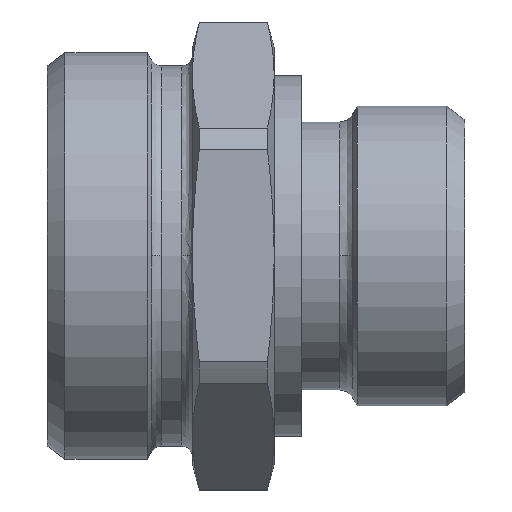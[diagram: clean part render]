
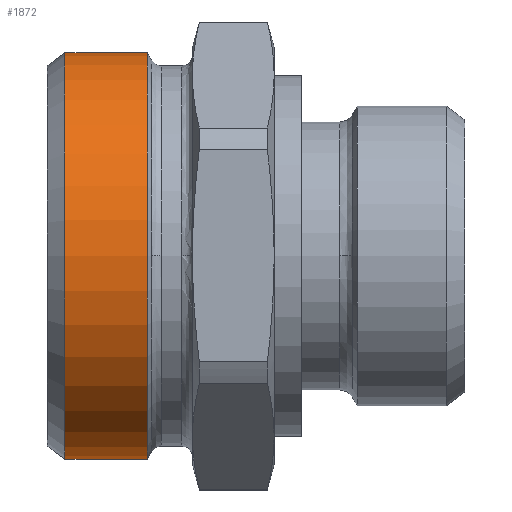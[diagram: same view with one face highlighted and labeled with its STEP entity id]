
A CAD part, top view. The second image highlights one B-rep face of the part: STEP entity #1872.
In plain terms, the highlighted cylindrical face has radius 22.41 mm (diameter 44.82 mm), a partial arc.
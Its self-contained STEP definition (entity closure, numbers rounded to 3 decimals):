
#908=CARTESIAN_POINT('',(0.,-22.41,18.563));
#909=VERTEX_POINT('',#908);
#910=CARTESIAN_POINT('',(0.,-22.41,9.493));
#911=VERTEX_POINT('',#910);
#912=CARTESIAN_POINT('',(0.,-22.41,18.563));
#913=DIRECTION('',(0.0,0.0,-1.0));
#914=VECTOR('',#913,9.07);
#915=LINE('',#912,#914);
#916=EDGE_CURVE('',#909,#911,#915,.T.);
#918=CARTESIAN_POINT('',(0.,22.41,18.563));
#919=VERTEX_POINT('',#918);
#927=CARTESIAN_POINT('',(0.,22.41,9.493));
#928=VERTEX_POINT('',#927);
#929=CARTESIAN_POINT('',(0.,22.41,9.493));
#930=DIRECTION('',(0.0,0.0,1.0));
#931=VECTOR('',#930,9.07);
#932=LINE('',#929,#931);
#933=EDGE_CURVE('',#928,#919,#932,.T.);
#1748=CARTESIAN_POINT('',(0.,0.,9.493));
#1749=DIRECTION('',(0.0,0.0,-1.0));
#1750=DIRECTION('',(0.0,-1.0,0.0));
#1751=AXIS2_PLACEMENT_3D('',#1748,#1749,#1750);
#1752=CIRCLE('',#1751,22.41);
#1753=EDGE_CURVE('',#928,#911,#1752,.T.);
#1849=CARTESIAN_POINT('',(0.,0.,18.563));
#1850=DIRECTION('',(0.0,0.0,-1.0));
#1851=DIRECTION('',(0.0,-1.0,0.0));
#1852=AXIS2_PLACEMENT_3D('',#1849,#1850,#1851);
#1853=CIRCLE('',#1852,22.41);
#1854=EDGE_CURVE('',#919,#909,#1853,.T.);
#1861=CARTESIAN_POINT('',(0.,0.,14.028));
#1862=DIRECTION('',(0.,0.,-1.0));
#1863=DIRECTION('',(0.0,-1.0,0.0));
#1864=AXIS2_PLACEMENT_3D('',#1861,#1862,#1863);
#1865=CYLINDRICAL_SURFACE('',#1864,22.41);
#1866=ORIENTED_EDGE('',*,*,#916,.T.);
#1867=ORIENTED_EDGE('',*,*,#1753,.F.);
#1868=ORIENTED_EDGE('',*,*,#933,.T.);
#1869=ORIENTED_EDGE('',*,*,#1854,.T.);
#1870=EDGE_LOOP('',(#1866,#1867,#1868,#1869));
#1871=FACE_OUTER_BOUND('',#1870,.T.);
#1872=ADVANCED_FACE('',(#1871),#1865,.T.);
